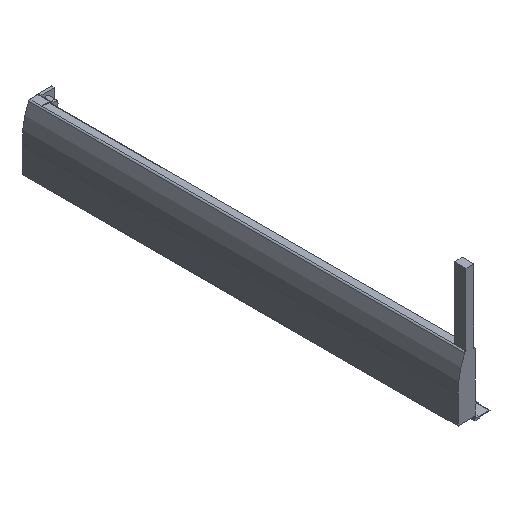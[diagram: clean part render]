
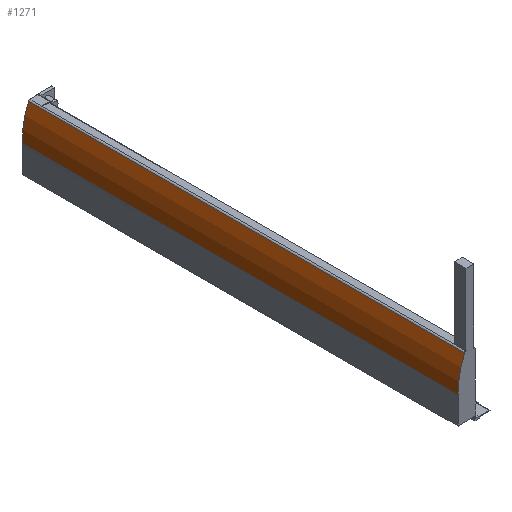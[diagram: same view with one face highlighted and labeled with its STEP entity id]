
A CAD part, isometric view. The second image highlights one B-rep face of the part: STEP entity #1271.
In plain terms, the highlighted cylindrical face has radius 120.6 mm (diameter 241.2 mm), a partial arc.
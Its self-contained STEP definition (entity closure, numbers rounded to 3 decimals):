
#29 = DIRECTION ( 'NONE',  ( -1., 0., 0. ) ) ;
#109 = DIRECTION ( 'NONE',  ( 0., -1., 0. ) ) ;
#132 = CARTESIAN_POINT ( 'NONE',  ( -2.3, 644.049, 23.168 ) ) ;
#194 = CARTESIAN_POINT ( 'NONE',  ( 118.3, 597., 23.168 ) ) ;
#195 = DIRECTION ( 'NONE',  ( 0., -1., 0. ) ) ;
#236 = VERTEX_POINT ( 'NONE', #333 ) ;
#291 = VERTEX_POINT ( 'NONE', #482 ) ;
#333 = CARTESIAN_POINT ( 'NONE',  ( 6.648, 0., 68.756 ) ) ;
#365 = VERTEX_POINT ( 'NONE', #530 ) ;
#429 = DIRECTION ( 'NONE',  ( 0., -1., 0. ) ) ;
#430 = CARTESIAN_POINT ( 'NONE',  ( 6.648, 644.049, 68.756 ) ) ;
#447 = VERTEX_POINT ( 'NONE', #562 ) ;
#482 = CARTESIAN_POINT ( 'NONE',  ( 6.648, 597., 68.756 ) ) ;
#530 = CARTESIAN_POINT ( 'NONE',  ( -2.3, 0., 23.168 ) ) ;
#562 = CARTESIAN_POINT ( 'NONE',  ( -2.3, 597., 23.168 ) ) ;
#918 = EDGE_CURVE ( 'NONE', #365, #236, #1333, .T. ) ;
#929 = EDGE_CURVE ( 'NONE', #291, #236, #1350, .T. ) ;
#997 = EDGE_CURVE ( 'NONE', #447, #365, #1474, .T. ) ;
#1011 = EDGE_CURVE ( 'NONE', #291, #447, #1501, .T. ) ;
#1080 = AXIS2_PLACEMENT_3D ( 'NONE', #1311, #1312, #1308 ) ;
#1097 = AXIS2_PLACEMENT_3D ( 'NONE', #194, #195, #29 ) ;
#1162 = AXIS2_PLACEMENT_3D ( 'NONE', #2458, #2460, #2462 ) ;
#1271 = ADVANCED_FACE ( 'NONE', ( #1643 ), #1644, .T. ) ;
#1308 = DIRECTION ( 'NONE',  ( -1., 0., 0. ) ) ;
#1311 = CARTESIAN_POINT ( 'NONE',  ( 118.3, 0., 23.168 ) ) ;
#1312 = DIRECTION ( 'NONE',  ( 0., 1., 0. ) ) ;
#1333 = CIRCLE ( 'NONE', #1080, 120.6 ) ;
#1350 = LINE ( 'NONE', #430, #1352 ) ;
#1352 = VECTOR ( 'NONE', #429, 1000. ) ;
#1474 = LINE ( 'NONE', #132, #1475 ) ;
#1475 = VECTOR ( 'NONE', #109, 1000. ) ;
#1501 = CIRCLE ( 'NONE', #1097, 120.6 ) ;
#1643 = FACE_OUTER_BOUND ( 'NONE', #2788, .T. ) ;
#1644 = CYLINDRICAL_SURFACE ( 'NONE', #1162, 120.6 ) ;
#1975 = ORIENTED_EDGE ( 'NONE', *, *, #918, .T. ) ;
#1976 = ORIENTED_EDGE ( 'NONE', *, *, #929, .F. ) ;
#1977 = ORIENTED_EDGE ( 'NONE', *, *, #1011, .T. ) ;
#1978 = ORIENTED_EDGE ( 'NONE', *, *, #997, .T. ) ;
#2458 = CARTESIAN_POINT ( 'NONE',  ( 118.3, 644.049, 23.168 ) ) ;
#2460 = DIRECTION ( 'NONE',  ( 0., -1., 0. ) ) ;
#2462 = DIRECTION ( 'NONE',  ( -1., 0., 0. ) ) ;
#2788 = EDGE_LOOP ( 'NONE', ( #1975, #1976, #1977, #1978 ) ) ;
